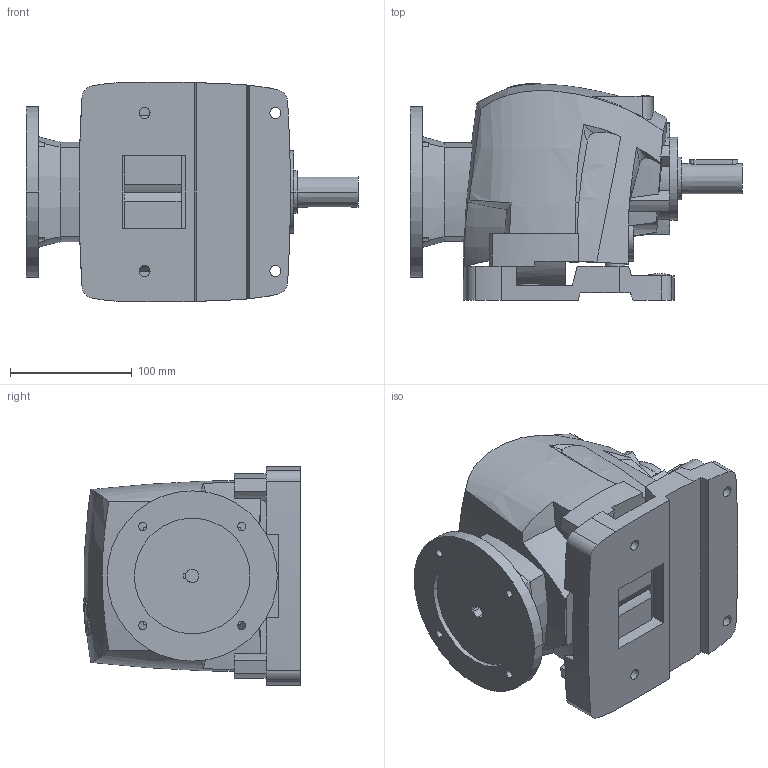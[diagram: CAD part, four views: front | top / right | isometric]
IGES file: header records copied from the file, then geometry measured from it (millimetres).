
Start section:  PTC IGES file: r25_bf_pam63.igs
Global section: file name: r25_bf_pam63.igs; native system: Pro/ENGINEER by Parametric Technology Corporation; preprocessor: 2008230; author: Luca; organization: Unknown; date: 20131216.114723; units: millimetre
Bounding box: 273 x 178.3 x 180.47 mm (x, y, z)
Volume: 3868398 mm3; surface area: 246582.7 mm2
Topology: 1 solids, 5 shells, 448 faces, 1247 edges, 833 vertices
Faces by surface type: bspline 276, revolution 170, extrusion 2
